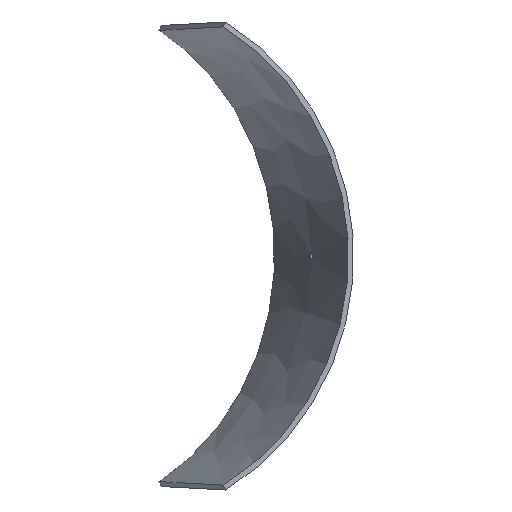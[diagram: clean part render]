
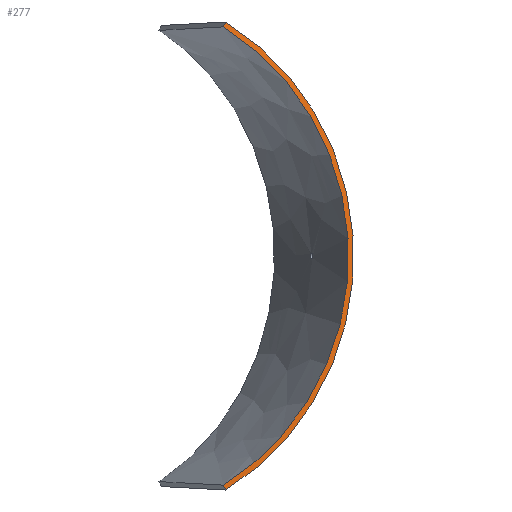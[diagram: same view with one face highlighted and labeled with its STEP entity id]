
A CAD part, left-side view. The second image highlights one B-rep face of the part: STEP entity #277.
In plain terms, the highlighted free-form (B-spline) face has degree [1, 3] with [2, 10] control points.
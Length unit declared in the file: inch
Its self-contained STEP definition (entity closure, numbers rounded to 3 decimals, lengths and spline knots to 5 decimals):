
#6 = CARTESIAN_POINT ( 'NONE',  ( 47.70889, -146.59785, -12.41882 ) ) ;
#9 = CARTESIAN_POINT ( 'NONE',  ( 42.69505, -131.24607, 30.94916 ) ) ;
#12 = CARTESIAN_POINT ( 'NONE',  ( 42.53291, -130.90284, 30.30232 ) ) ;
#16 = CARTESIAN_POINT ( 'NONE',  ( 42.69505, -131.24607, -30.94916 ) ) ;
#29 = CARTESIAN_POINT ( 'NONE',  ( 44.17092, -135.9441, -27.21672 ) ) ;
#32 = CARTESIAN_POINT ( 'NONE',  ( 47.41972, -145.94289, 12.15998 ) ) ;
#40 = EDGE_CURVE ( 'NONE', #450, #441, #279, .T. ) ;
#46 = CARTESIAN_POINT ( 'NONE',  ( 45.77039, -140.66246, 23.27999 ) ) ;
#54 = CARTESIAN_POINT ( 'NONE',  ( 44.3757, -136.39215, 27.79725 ) ) ;
#99 = CARTESIAN_POINT ( 'NONE',  ( 42.53291, -130.90284, 30.30232 ) ) ;
#104 = CARTESIAN_POINT ( 'NONE',  ( 42.69505, -131.24607, 30.94916 ) ) ;
#106 = CARTESIAN_POINT ( 'NONE',  ( 47.70889, -146.59785, -12.41882 ) ) ;
#110 = CARTESIAN_POINT ( 'NONE',  ( 44.3757, -136.39217, 27.79724 ) ) ;
#134 = CARTESIAN_POINT ( 'NONE',  ( 42.69505, -131.24607, -30.94916 ) ) ;
#136 = CARTESIAN_POINT ( 'NONE',  ( 42.69505, -131.24607, 30.94916 ) ) ;
#139 = CARTESIAN_POINT ( 'NONE',  ( 45.53026, -140.12772, 22.79422 ) ) ;
#143 = FACE_OUTER_BOUND ( 'NONE', #242, .T. ) ;
#147 = CARTESIAN_POINT ( 'NONE',  ( 45.77039, -140.66246, 23.27999 ) ) ;
#159 = EDGE_CURVE ( 'NONE', #441, #305, #353, .T. ) ;
#161 = CARTESIAN_POINT ( 'NONE',  ( 42.53291, -130.90284, -30.30232 ) ) ;
#186 = EDGE_CURVE ( 'NONE', #450, #392, #394, .T. ) ;
#189 = CARTESIAN_POINT ( 'NONE',  ( 42.53291, -130.90284, -30.30232 ) ) ;
#192 = CARTESIAN_POINT ( 'NONE',  ( 42.69505, -131.24607, -30.94916 ) ) ;
#206 = CARTESIAN_POINT ( 'NONE',  ( 45.77039, -140.66246, -23.27999 ) ) ;
#214 = CARTESIAN_POINT ( 'NONE',  ( 47.70889, -146.59785, 12.41882 ) ) ;
#222 = CARTESIAN_POINT ( 'NONE',  ( 47.41972, -145.94289, -12.15998 ) ) ;
#231 = CARTESIAN_POINT ( 'NONE',  ( 44.17092, -135.9441, 27.21672 ) ) ;
#232 = B_SPLINE_CURVE_WITH_KNOTS ( 'NONE', 1,
 ( #343, #521 ),
 .UNSPECIFIED., .F., .F.,
 ( 2, 2 ),
 ( 0., 1. ),
 .UNSPECIFIED. ) ;
#242 = EDGE_LOOP ( 'NONE', ( #273, #405, #323, #452 ) ) ;
#256 = EDGE_CURVE ( 'NONE', #392, #305, #232, .T. ) ;
#261 = CARTESIAN_POINT ( 'NONE',  ( 47.91695, -147.4732, 6.13338 ) ) ;
#269 = CARTESIAN_POINT ( 'NONE',  ( 45.53026, -140.12772, 22.79422 ) ) ;
#272 = CARTESIAN_POINT ( 'NONE',  ( 45.77039, -140.66246, -23.27999 ) ) ;
#273 = ORIENTED_EDGE ( 'NONE', *, *, #40, .F. ) ;
#277 = ADVANCED_FACE ( 'NONE', ( #143 ), #473, .F. ) ;
#279 = B_SPLINE_CURVE_WITH_KNOTS ( 'NONE', 1,
 ( #12, #9 ),
 .UNSPECIFIED., .F., .F.,
 ( 2, 2 ),
 ( 0., 1. ),
 .UNSPECIFIED. ) ;
#299 = CARTESIAN_POINT ( 'NONE',  ( 48.219, -148.15969, -6.26389 ) ) ;
#304 = CARTESIAN_POINT ( 'NONE',  ( 42.53291, -130.90284, -30.30232 ) ) ;
#305 = VERTEX_POINT ( 'NONE', #134 ) ;
#312 = CARTESIAN_POINT ( 'NONE',  ( 47.91695, -147.4732, -6.13338 ) ) ;
#316 = CARTESIAN_POINT ( 'NONE',  ( 47.91695, -147.4732, -6.13338 ) ) ;
#323 = ORIENTED_EDGE ( 'NONE', *, *, #256, .T. ) ;
#339 = CARTESIAN_POINT ( 'NONE',  ( 42.53291, -130.90284, 30.30232 ) ) ;
#343 = CARTESIAN_POINT ( 'NONE',  ( 42.53291, -130.90284, -30.30232 ) ) ;
#348 = CARTESIAN_POINT ( 'NONE',  ( 45.53026, -140.12772, -22.79422 ) ) ;
#353 = B_SPLINE_CURVE_WITH_KNOTS ( 'NONE', 3,
 ( #136, #54, #46, #214, #371, #299, #6, #206, #498, #16 ),
 .UNSPECIFIED., .F., .F.,
 ( 4, 2, 2, 2, 4 ),
 ( 0., 0.25, 0.5, 0.75, 1. ),
 .UNSPECIFIED. ) ;
#357 = CARTESIAN_POINT ( 'NONE',  ( 48.219, -148.15969, -6.26389 ) ) ;
#371 = CARTESIAN_POINT ( 'NONE',  ( 48.219, -148.15969, 6.26389 ) ) ;
#392 = VERTEX_POINT ( 'NONE', #161 ) ;
#394 = B_SPLINE_CURVE_WITH_KNOTS ( 'NONE', 3,
 ( #339, #507, #139, #469, #261, #316, #222, #348, #29, #189 ),
 .UNSPECIFIED., .F., .F.,
 ( 4, 2, 2, 2, 4 ),
 ( 0., 0.25, 0.5, 0.75, 1. ),
 .UNSPECIFIED. ) ;
#399 = CARTESIAN_POINT ( 'NONE',  ( 44.3757, -136.39217, -27.79724 ) ) ;
#402 = CARTESIAN_POINT ( 'NONE',  ( 42.69505, -131.24607, 30.94916 ) ) ;
#405 = ORIENTED_EDGE ( 'NONE', *, *, #186, .T. ) ;
#440 = CARTESIAN_POINT ( 'NONE',  ( 47.70889, -146.59785, 12.41882 ) ) ;
#441 = VERTEX_POINT ( 'NONE', #104 ) ;
#444 = CARTESIAN_POINT ( 'NONE',  ( 44.17092, -135.9441, -27.21672 ) ) ;
#450 = VERTEX_POINT ( 'NONE', #471 ) ;
#452 = ORIENTED_EDGE ( 'NONE', *, *, #159, .F. ) ;
#469 = CARTESIAN_POINT ( 'NONE',  ( 47.41972, -145.94289, 12.15998 ) ) ;
#471 = CARTESIAN_POINT ( 'NONE',  ( 42.53291, -130.90284, 30.30232 ) ) ;
#472 = CARTESIAN_POINT ( 'NONE',  ( 45.53026, -140.12772, -22.79422 ) ) ;
#473 = B_SPLINE_SURFACE_WITH_KNOTS ( 'NONE', 1, 3, ( 
 ( #192, #399, #272, #106, #357, #518, #440, #147, #110, #402 ),
 ( #304, #444, #472, #483, #312, #476, #32, #269, #231, #99 ) ),
 .UNSPECIFIED., .F., .F., .F.,
 ( 2, 2 ),
 ( 4, 2, 2, 2, 4 ),
 ( 0., 1. ),
 ( 0., 0.25, 0.5, 0.75, 1. ),
 .UNSPECIFIED. ) ;
#476 = CARTESIAN_POINT ( 'NONE',  ( 47.91695, -147.4732, 6.13338 ) ) ;
#483 = CARTESIAN_POINT ( 'NONE',  ( 47.41972, -145.94289, -12.15998 ) ) ;
#498 = CARTESIAN_POINT ( 'NONE',  ( 44.3757, -136.39215, -27.79725 ) ) ;
#507 = CARTESIAN_POINT ( 'NONE',  ( 44.17092, -135.9441, 27.21672 ) ) ;
#518 = CARTESIAN_POINT ( 'NONE',  ( 48.219, -148.15969, 6.26389 ) ) ;
#521 = CARTESIAN_POINT ( 'NONE',  ( 42.69505, -131.24607, -30.94916 ) ) ;
